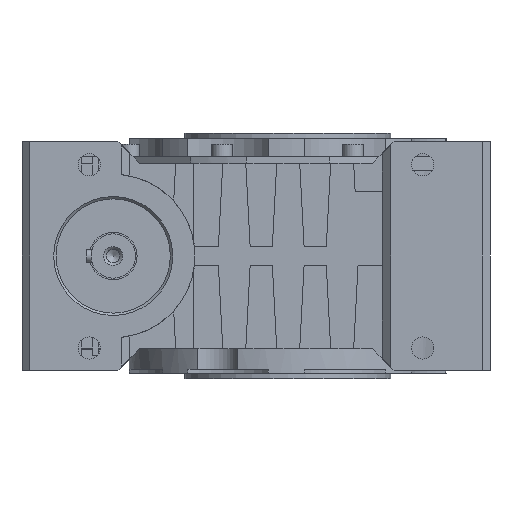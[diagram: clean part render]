
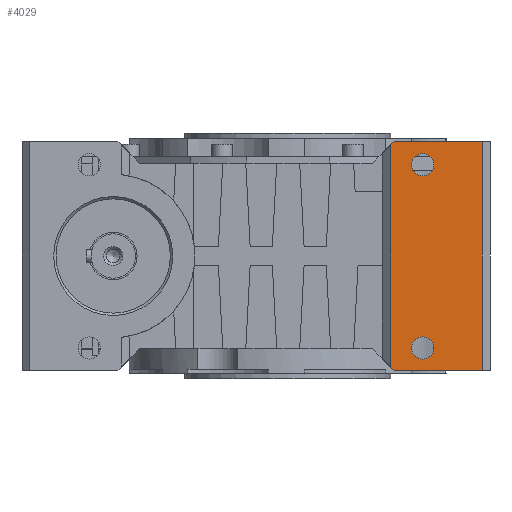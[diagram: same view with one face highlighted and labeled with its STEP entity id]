
A CAD part, left-side view. The second image highlights one B-rep face of the part: STEP entity #4029.
In plain terms, the highlighted planar face has unit normal (-1, 0, 0).
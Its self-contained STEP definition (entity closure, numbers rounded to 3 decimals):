
#877=CARTESIAN_POINT('',(-127.5,-122.5,72.0));
#878=VERTEX_POINT('',#877);
#885=CARTESIAN_POINT('',(-127.5,-122.5,-72.0));
#886=VERTEX_POINT('',#885);
#887=CARTESIAN_POINT('',(-127.5,-122.5,-72.0));
#888=DIRECTION('',(0.0,0.0,1.0));
#889=VECTOR('',#888,144.0);
#890=LINE('',#887,#889);
#891=EDGE_CURVE('',#886,#878,#890,.T.);
#3961=CARTESIAN_POINT('',(-127.5,-122.5,-72.0));
#3962=DIRECTION('',(-1.0,0.0,0.0));
#3963=DIRECTION('',(0.0,0.0,1.0));
#3964=AXIS2_PLACEMENT_3D('',#3961,#3962,#3963);
#3965=PLANE('',#3964);
#3966=CARTESIAN_POINT('',(-127.5,-65.0,-70.0));
#3967=VERTEX_POINT('',#3966);
#3968=CARTESIAN_POINT('',(-127.5,-67.0,-72.0));
#3969=VERTEX_POINT('',#3968);
#3970=CARTESIAN_POINT('',(-127.5,-65.0,-70.0));
#3971=DIRECTION('',(0.0,-0.707,-0.707));
#3972=VECTOR('',#3971,2.828);
#3973=LINE('',#3970,#3972);
#3974=EDGE_CURVE('',#3967,#3969,#3973,.T.);
#3975=ORIENTED_EDGE('',*,*,#3974,.T.);
#3976=CARTESIAN_POINT('',(-127.5,-122.5,-72.0));
#3977=DIRECTION('',(0.0,1.0,0.0));
#3978=VECTOR('',#3977,55.5);
#3979=LINE('',#3976,#3978);
#3980=EDGE_CURVE('',#886,#3969,#3979,.T.);
#3981=ORIENTED_EDGE('',*,*,#3980,.F.);
#3982=ORIENTED_EDGE('',*,*,#891,.T.);
#3983=CARTESIAN_POINT('',(-127.5,-67.0,72.0));
#3984=VERTEX_POINT('',#3983);
#3985=CARTESIAN_POINT('',(-127.5,-122.5,72.0));
#3986=DIRECTION('',(0.0,1.0,0.0));
#3987=VECTOR('',#3986,55.5);
#3988=LINE('',#3985,#3987);
#3989=EDGE_CURVE('',#878,#3984,#3988,.T.);
#3990=ORIENTED_EDGE('',*,*,#3989,.T.);
#3991=CARTESIAN_POINT('',(-127.5,-65.0,70.0));
#3992=VERTEX_POINT('',#3991);
#3993=CARTESIAN_POINT('',(-127.5,-67.,72.));
#3994=DIRECTION('',(0.0,0.707,-0.707));
#3995=VECTOR('',#3994,2.828);
#3996=LINE('',#3993,#3995);
#3997=EDGE_CURVE('',#3984,#3992,#3996,.T.);
#3998=ORIENTED_EDGE('',*,*,#3997,.T.);
#3999=CARTESIAN_POINT('',(-127.5,-65.0,-70.0));
#4000=DIRECTION('',(0.0,0.0,1.0));
#4001=VECTOR('',#4000,140.0);
#4002=LINE('',#3999,#4001);
#4003=EDGE_CURVE('',#3967,#3992,#4002,.T.);
#4004=ORIENTED_EDGE('',*,*,#4003,.F.);
#4005=EDGE_LOOP('',(#3975,#3981,#3982,#3990,#3998,#4004));
#4006=FACE_OUTER_BOUND('',#4005,.T.);
#4007=CARTESIAN_POINT('',(-127.5,-85.0,64.5));
#4008=VERTEX_POINT('',#4007);
#4009=CARTESIAN_POINT('',(-127.5,-85.0,57.5));
#4010=DIRECTION('',(1.0,0.0,0.0));
#4011=DIRECTION('',(0.0,0.0,-1.0));
#4012=AXIS2_PLACEMENT_3D('',#4009,#4010,#4011);
#4013=CIRCLE('',#4012,7.);
#4014=EDGE_CURVE('',#4008,#4008,#4013,.T.);
#4015=ORIENTED_EDGE('',*,*,#4014,.T.);
#4016=EDGE_LOOP('',(#4015));
#4017=FACE_BOUND('',#4016,.T.);
#4018=CARTESIAN_POINT('',(-127.5,-85.0,-51.));
#4019=VERTEX_POINT('',#4018);
#4020=CARTESIAN_POINT('',(-127.5,-85.0,-58.));
#4021=DIRECTION('',(1.0,0.0,0.0));
#4022=DIRECTION('',(0.0,0.0,-1.0));
#4023=AXIS2_PLACEMENT_3D('',#4020,#4021,#4022);
#4024=CIRCLE('',#4023,7.);
#4025=EDGE_CURVE('',#4019,#4019,#4024,.T.);
#4026=ORIENTED_EDGE('',*,*,#4025,.T.);
#4027=EDGE_LOOP('',(#4026));
#4028=FACE_BOUND('',#4027,.T.);
#4029=ADVANCED_FACE('',(#4006,#4017,#4028),#3965,.T.);
